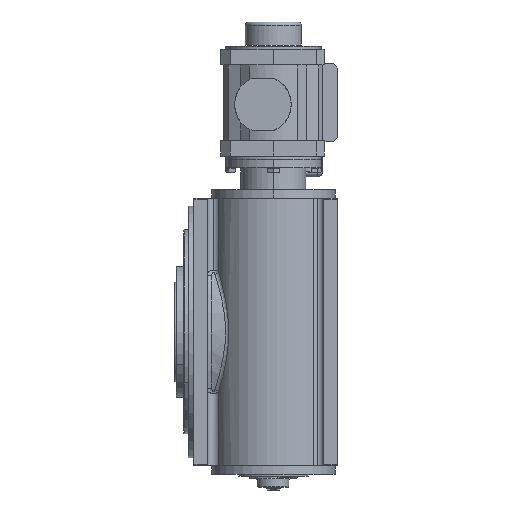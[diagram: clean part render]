
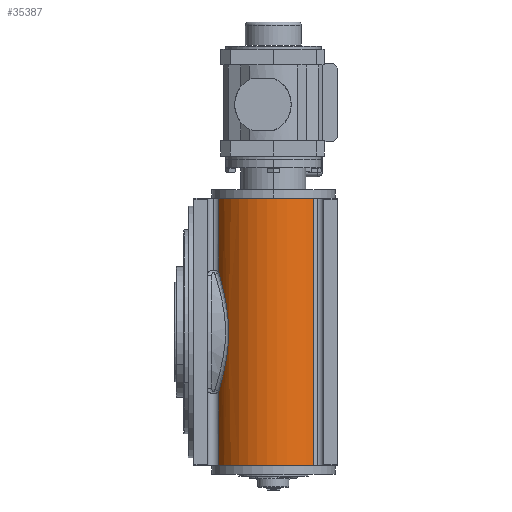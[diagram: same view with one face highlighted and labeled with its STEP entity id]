
A CAD part, left-side view. The second image highlights one B-rep face of the part: STEP entity #35387.
In plain terms, the highlighted cylindrical face has radius 71 mm (diameter 142 mm), a partial arc.
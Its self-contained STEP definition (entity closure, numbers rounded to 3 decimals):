
#1134 = CARTESIAN_POINT ( 'NONE',  ( -141.962, 127.251, -25.6 ) ) ;
#3252 = CARTESIAN_POINT ( 'NONE',  ( -95., 74., -154. ) ) ;
#3712 = EDGE_CURVE ( 'NONE', #63004, #35817, #50526, .T. ) ;
#4665 = ORIENTED_EDGE ( 'NONE', *, *, #35873, .T. ) ;
#5096 = CARTESIAN_POINT ( 'NONE',  ( -137.325, 131.008, 45.529 ) ) ;
#5854 = CARTESIAN_POINT ( 'NONE',  ( -144.049, 125.334, 2.839 ) ) ;
#6295 = ORIENTED_EDGE ( 'NONE', *, *, #3712, .T. ) ;
#6637 = CARTESIAN_POINT ( 'NONE',  ( -142.199, 127.041, -24.119 ) ) ;
#7185 = VECTOR ( 'NONE', #70593, 1000. ) ;
#10456 = AXIS2_PLACEMENT_3D ( 'NONE', #47758, #28538, #58380 ) ;
#11393 = CARTESIAN_POINT ( 'NONE',  ( -135.5, 132.319, 51.157 ) ) ;
#11773 = CARTESIAN_POINT ( 'NONE',  ( -143.2, 126.132, 16.387 ) ) ;
#14460 = CARTESIAN_POINT ( 'NONE',  ( -128.109, 136.808, 500000. ) ) ;
#15475 = DIRECTION ( 'NONE',  ( 1., 0., 0. ) ) ;
#15901 = EDGE_CURVE ( 'NONE', #46367, #67623, #32407, .T. ) ;
#16546 = B_SPLINE_CURVE_WITH_KNOTS ( 'NONE', 3,
 ( #28254, #34918, #70256, #11393, #58871, #70626, #5096, #29399, #59614, #71017, #17307, #11773, #41216, #35278, #53354, #35655, #5854, #29802, #77669, #36840, #36436, #6637, #1134, #72946, #72563, #30177, #37642, #55326, #73333, #55701 ),
 .UNSPECIFIED., .F., .F.,
 ( 4, 2, 2, 2, 2, 2, 2, 2, 2, 2, 2, 2, 2, 2, 4 ),
 ( 0., 0.018, 0.023, 0.027, 0.036, 0.055, 0.059, 0.064, 0.073, 0.091, 0.095, 0.1, 0.109, 0.127, 0.145 ),
 .UNSPECIFIED. ) ;
#17307 = CARTESIAN_POINT ( 'NONE',  ( -142.345, 126.918, 23.884 ) ) ;
#18844 = EDGE_LOOP ( 'NONE', ( #36634, #4665, #6295, #70806, #22052, #71286 ) ) ;
#20775 = EDGE_CURVE ( 'NONE', #45716, #67623, #50568, .T. ) ;
#22052 = ORIENTED_EDGE ( 'NONE', *, *, #15901, .T. ) ;
#24734 = CARTESIAN_POINT ( 'NONE',  ( -148.721, 27.577, -154. ) ) ;
#26516 = CARTESIAN_POINT ( 'NONE',  ( -148.721, 27.577, -154. ) ) ;
#26828 = FACE_OUTER_BOUND ( 'NONE', #18844, .T. ) ;
#27316 = AXIS2_PLACEMENT_3D ( 'NONE', #39357, #44895, #69982 ) ;
#28221 = CARTESIAN_POINT ( 'NONE',  ( -128.109, 136.808, -500000. ) ) ;
#28254 = CARTESIAN_POINT ( 'NONE',  ( -128.109, 136.808, 68.859 ) ) ;
#28538 = DIRECTION ( 'NONE',  ( 0., 0., 1. ) ) ;
#29043 = CARTESIAN_POINT ( 'NONE',  ( -128.109, 136.808, 154. ) ) ;
#29399 = CARTESIAN_POINT ( 'NONE',  ( -138.57, 130.069, 41.275 ) ) ;
#29802 = CARTESIAN_POINT ( 'NONE',  ( -144.04, 125.343, -6.17 ) ) ;
#30177 = CARTESIAN_POINT ( 'NONE',  ( -138.584, 130.076, -41.542 ) ) ;
#32024 = CARTESIAN_POINT ( 'NONE',  ( -128.109, 136.808, -68.859 ) ) ;
#32407 = LINE ( 'NONE', #26516, #55366 ) ;
#34174 = EDGE_CURVE ( 'NONE', #69374, #45716, #63973, .T. ) ;
#34918 = CARTESIAN_POINT ( 'NONE',  ( -130.725, 135.429, 63.555 ) ) ;
#35278 = CARTESIAN_POINT ( 'NONE',  ( -143.607, 125.753, 11.865 ) ) ;
#35387 = ADVANCED_FACE ( 'NONE', ( #26828 ), #68441, .T. ) ;
#35655 = CARTESIAN_POINT ( 'NONE',  ( -143.967, 125.413, 5.846 ) ) ;
#35817 = VERTEX_POINT ( 'NONE', #39644 ) ;
#35873 = EDGE_CURVE ( 'NONE', #69374, #63004, #16546, .T. ) ;
#36436 = CARTESIAN_POINT ( 'NONE',  ( -142.631, 126.653, -21.138 ) ) ;
#36634 = ORIENTED_EDGE ( 'NONE', *, *, #34174, .F. ) ;
#36840 = CARTESIAN_POINT ( 'NONE',  ( -142.826, 126.476, -19.641 ) ) ;
#37642 = CARTESIAN_POINT ( 'NONE',  ( -136.93, 131.346, -47.157 ) ) ;
#38223 = EDGE_CURVE ( 'NONE', #35817, #46367, #62600, .T. ) ;
#38789 = AXIS2_PLACEMENT_3D ( 'NONE', #3252, #70363, #15475 ) ;
#39357 = CARTESIAN_POINT ( 'NONE',  ( -95., 74., -154. ) ) ;
#39644 = CARTESIAN_POINT ( 'NONE',  ( -128.109, 136.808, -154. ) ) ;
#41216 = CARTESIAN_POINT ( 'NONE',  ( -143.351, 125.993, 14.878 ) ) ;
#42603 = CARTESIAN_POINT ( 'NONE',  ( -128.109, 136.808, 68.859 ) ) ;
#44895 = DIRECTION ( 'NONE',  ( 0., 0., 1. ) ) ;
#45716 = VERTEX_POINT ( 'NONE', #29043 ) ;
#46367 = VERTEX_POINT ( 'NONE', #24734 ) ;
#47758 = CARTESIAN_POINT ( 'NONE',  ( -95., 74., 154. ) ) ;
#50526 = LINE ( 'NONE', #14460, #55108 ) ;
#50568 = CIRCLE ( 'NONE', #10456, 71. ) ;
#53354 = CARTESIAN_POINT ( 'NONE',  ( -143.713, 125.653, 10.36 ) ) ;
#55108 = VECTOR ( 'NONE', #57180, 1000. ) ;
#55326 = CARTESIAN_POINT ( 'NONE',  ( -132.999, 134.023, -58.167 ) ) ;
#55366 = VECTOR ( 'NONE', #71564, 1000. ) ;
#55701 = CARTESIAN_POINT ( 'NONE',  ( -128.109, 136.808, -68.859 ) ) ;
#57180 = DIRECTION ( 'NONE',  ( 0., 0., -1. ) ) ;
#58380 = DIRECTION ( 'NONE',  ( 1., 0., 0. ) ) ;
#58871 = CARTESIAN_POINT ( 'NONE',  ( -135.977, 131.984, 49.755 ) ) ;
#59614 = CARTESIAN_POINT ( 'NONE',  ( -139.32, 129.475, 38.415 ) ) ;
#62600 = CIRCLE ( 'NONE', #38789, 71. ) ;
#63004 = VERTEX_POINT ( 'NONE', #32024 ) ;
#63973 = LINE ( 'NONE', #28221, #7185 ) ;
#66488 = CARTESIAN_POINT ( 'NONE',  ( -148.721, 27.577, 154. ) ) ;
#67623 = VERTEX_POINT ( 'NONE', #66488 ) ;
#68441 = CYLINDRICAL_SURFACE ( 'NONE', #27316, 71. ) ;
#69374 = VERTEX_POINT ( 'NONE', #42603 ) ;
#69982 = DIRECTION ( 'NONE',  ( 1., 0., 0. ) ) ;
#70256 = CARTESIAN_POINT ( 'NONE',  ( -133.018, 134.012, 58.125 ) ) ;
#70363 = DIRECTION ( 'NONE',  ( 0., 0., 1. ) ) ;
#70593 = DIRECTION ( 'NONE',  ( 0., 0., 1. ) ) ;
#70626 = CARTESIAN_POINT ( 'NONE',  ( -136.889, 131.329, 46.942 ) ) ;
#70806 = ORIENTED_EDGE ( 'NONE', *, *, #38223, .T. ) ;
#71017 = CARTESIAN_POINT ( 'NONE',  ( -141.327, 127.831, 29.758 ) ) ;
#71286 = ORIENTED_EDGE ( 'NONE', *, *, #20775, .F. ) ;
#71564 = DIRECTION ( 'NONE',  ( 0., 0., 1. ) ) ;
#72563 = CARTESIAN_POINT ( 'NONE',  ( -140.598, 128.429, -32.922 ) ) ;
#72946 = CARTESIAN_POINT ( 'NONE',  ( -141.192, 127.924, -30.015 ) ) ;
#73333 = CARTESIAN_POINT ( 'NONE',  ( -130.722, 135.43, -63.561 ) ) ;
#77669 = CARTESIAN_POINT ( 'NONE',  ( -143.692, 125.681, -12.164 ) ) ;
